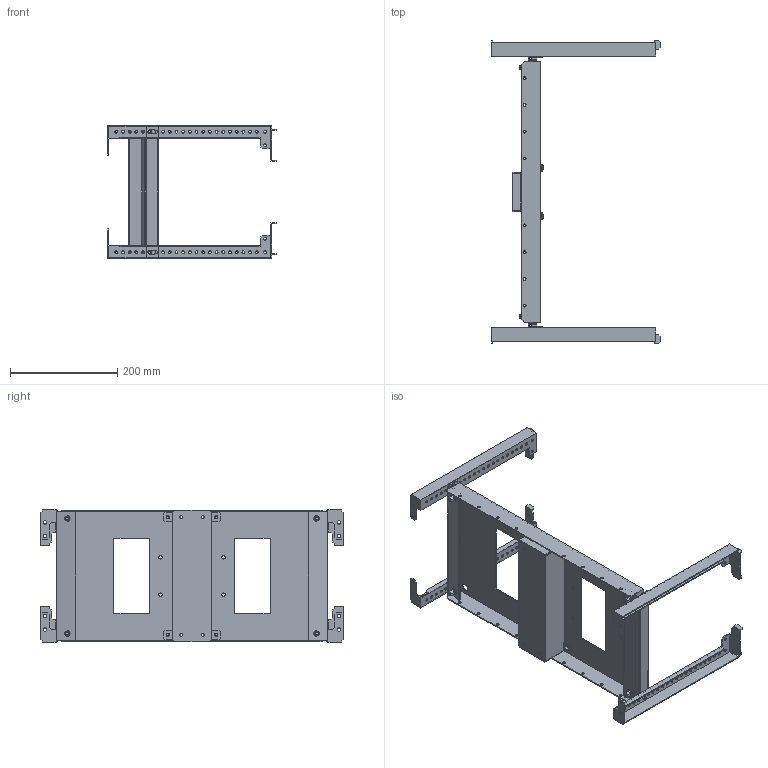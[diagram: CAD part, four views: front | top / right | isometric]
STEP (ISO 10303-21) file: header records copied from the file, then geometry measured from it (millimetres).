
FILE_DESCRIPTION (( 'STEP AP214' ), '1' );
FILE_NAME ('FO-00-HIVT-025-060 FORMAT Êîìïëåêòò ãîðèçîíòàëüíîé óñòàíîâêè ARMAT MCCB H_I âòû÷í. 3P 250õ600 IEK.STEP', '2025-07-16T07:16:56', ( '' ), ( '' ), 'SwSTEP 2.0', 'SolidWorks 2023', '' );
FILE_SCHEMA (( 'AUTOMOTIVE_DESIGN' ));
Length unit declared in the file: millimetre
Products named in the file (5): Траверса горизонтальная; Панель монтажная H I втычная 250x600; Траверса горизонтальнаяD; FO-00-HIVT-025-060 FORMAT Комплектт горизонтальной установки ARMAT MCCB H_I втычн. 3P 250х600 IEK; Винты DIN 912 4xM6x20 250x600
Assembly tree (6 placements, depth 2):
  FO-00-HIVT-025-060 FORMAT Комплектт горизонтальной установки ARMAT MCCB H_I втычн. 3P 250х600 IEK
    Панель монтажная H I втычная 250x600
    Винты DIN 912 4xM6x20 250x600
    Траверса горизонтальная  x2
    Траверса горизонтальнаяD  x2
Bounding box: 314.5 x 565.63 x 247 mm (x, y, z)
Volume: 590771.6 mm3; surface area: 629220.3 mm2
Topology: 9 solids, 17 shells, 1250 faces, 3380 edges, 2220 vertices
Faces by surface type: cylinder 568, plane 562, cone 72, torus 48
Entity records: 33571 total; most frequent: CARTESIAN_POINT 6635, DIRECTION 5756, ORIENTED_EDGE 5428, EDGE_CURVE 2714, AXIS2_PLACEMENT_3D 2089, VERTEX_POINT 1776, LINE 1578, VECTOR 1578
